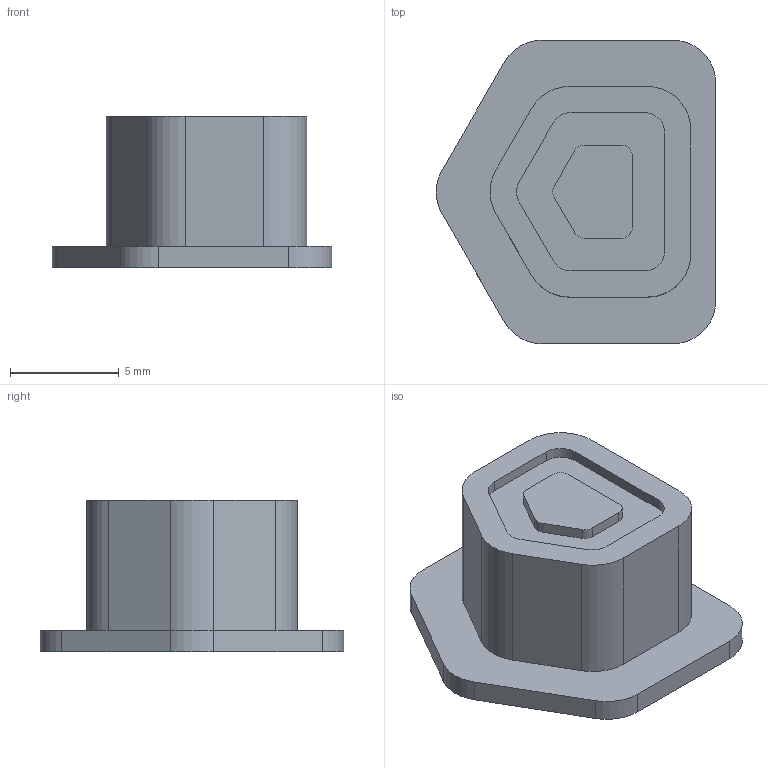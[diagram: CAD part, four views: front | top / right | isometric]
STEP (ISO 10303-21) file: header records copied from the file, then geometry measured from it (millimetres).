
FILE_DESCRIPTION((''),'2;1');
FILE_NAME('00','2024-10-21T08:48:54',('Administrator'),(''),'CREO PARAMETRIC BY PTC INC, 2024063','CREO PARAMETRIC BY PTC INC, 2024063','');
FILE_SCHEMA(('CONFIG_CONTROL_DESIGN'));
Length unit declared in the file: millimetre
Products named in the file (1): 00
Bounding box: 12.89 x 14 x 7 mm (x, y, z)
Volume: 542.8 mm3; surface area: 620.2 mm2
Topology: 1 solids, 1 shells, 50 faces, 130 edges, 86 vertices
Faces by surface type: plane 26, cylinder 20, cone 4
Entity records: 1582 total; most frequent: DIRECTION 276, CARTESIAN_POINT 266, ORIENTED_EDGE 260, EDGE_CURVE 130, AXIS2_PLACEMENT_3D 96, VERTEX_POINT 86, VECTOR 84, LINE 84
